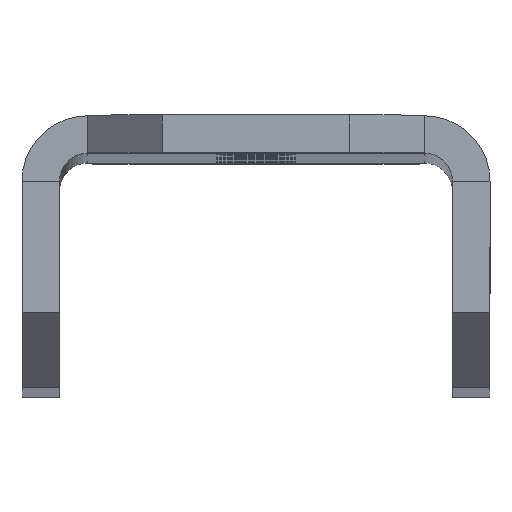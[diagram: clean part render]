
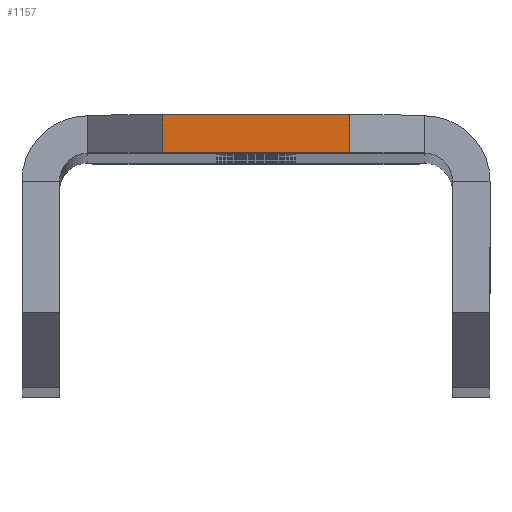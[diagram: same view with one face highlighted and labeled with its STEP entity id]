
A CAD part, top view. The second image highlights one B-rep face of the part: STEP entity #1157.
In plain terms, the highlighted planar face has unit normal (0, 0, 1).
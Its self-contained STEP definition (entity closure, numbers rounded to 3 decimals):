
#17 = VECTOR ( 'NONE', #1778, 1000. ) ;
#67 = CARTESIAN_POINT ( 'NONE',  ( -5., 0., 180.155 ) ) ;
#75 = AXIS2_PLACEMENT_3D ( 'NONE', #461, #2954, #1789 ) ;
#84 = VECTOR ( 'NONE', #1680, 1000. ) ;
#240 = ORIENTED_EDGE ( 'NONE', *, *, #965, .F. ) ;
#442 = EDGE_CURVE ( 'NONE', #470, #1539, #1227, .T. ) ;
#461 = CARTESIAN_POINT ( 'NONE',  ( 9., 0., 180.155 ) ) ;
#470 = VERTEX_POINT ( 'NONE', #1989 ) ;
#588 = VERTEX_POINT ( 'NONE', #1393 ) ;
#776 = ORIENTED_EDGE ( 'NONE', *, *, #931, .T. ) ;
#785 = ORIENTED_EDGE ( 'NONE', *, *, #442, .T. ) ;
#797 = FACE_OUTER_BOUND ( 'NONE', #1584, .T. ) ;
#824 = LINE ( 'NONE', #996, #84 ) ;
#931 = EDGE_CURVE ( 'NONE', #1539, #1544, #2469, .T. ) ;
#965 = EDGE_CURVE ( 'NONE', #588, #1544, #1252, .T. ) ;
#996 = CARTESIAN_POINT ( 'NONE',  ( 5., 0., 180.155 ) ) ;
#1148 = VECTOR ( 'NONE', #2790, 1000. ) ;
#1157 = ADVANCED_FACE ( 'NONE', ( #797 ), #2716, .T. ) ;
#1194 = ORIENTED_EDGE ( 'NONE', *, *, #1952, .T. ) ;
#1227 = LINE ( 'NONE', #1759, #17 ) ;
#1252 = LINE ( 'NONE', #2334, #1148 ) ;
#1393 = CARTESIAN_POINT ( 'NONE',  ( 5., -2., 180.155 ) ) ;
#1539 = VERTEX_POINT ( 'NONE', #1626 ) ;
#1544 = VERTEX_POINT ( 'NONE', #2343 ) ;
#1584 = EDGE_LOOP ( 'NONE', ( #240, #1194, #785, #776 ) ) ;
#1626 = CARTESIAN_POINT ( 'NONE',  ( -5., 0., 180.155 ) ) ;
#1680 = DIRECTION ( 'NONE',  ( 0., 1., 0. ) ) ;
#1759 = CARTESIAN_POINT ( 'NONE',  ( 9., 0., 180.155 ) ) ;
#1778 = DIRECTION ( 'NONE',  ( -1., 0., 0. ) ) ;
#1789 = DIRECTION ( 'NONE',  ( 0., -1., 0. ) ) ;
#1852 = DIRECTION ( 'NONE',  ( 0., -1., 0. ) ) ;
#1952 = EDGE_CURVE ( 'NONE', #588, #470, #824, .T. ) ;
#1989 = CARTESIAN_POINT ( 'NONE',  ( 5., 0., 180.155 ) ) ;
#2334 = CARTESIAN_POINT ( 'NONE',  ( 9., -2., 180.155 ) ) ;
#2343 = CARTESIAN_POINT ( 'NONE',  ( -5., -2., 180.155 ) ) ;
#2469 = LINE ( 'NONE', #67, #2720 ) ;
#2716 = PLANE ( 'NONE',  #75 ) ;
#2720 = VECTOR ( 'NONE', #1852, 1000. ) ;
#2790 = DIRECTION ( 'NONE',  ( -1., 0., 0. ) ) ;
#2954 = DIRECTION ( 'NONE',  ( 0., 0., 1. ) ) ;
